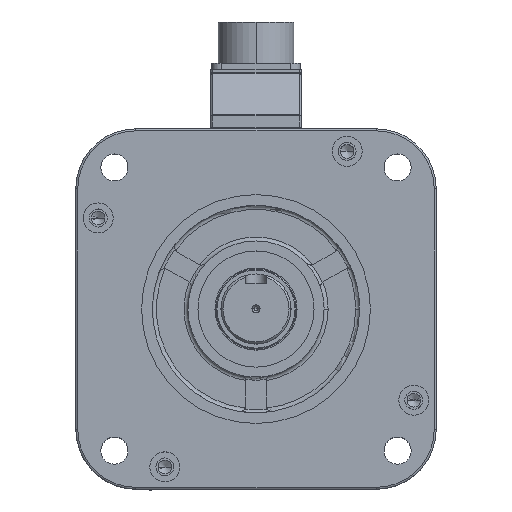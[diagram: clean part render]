
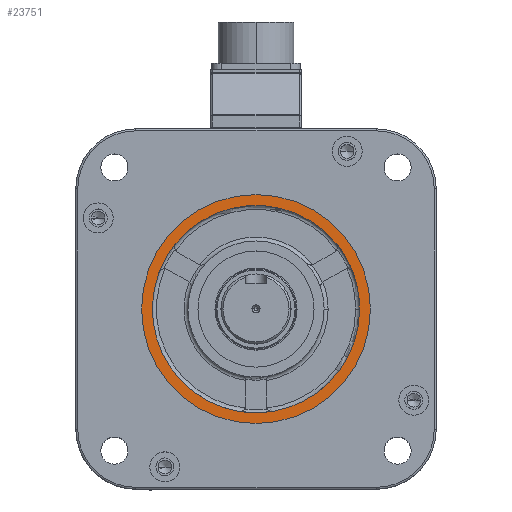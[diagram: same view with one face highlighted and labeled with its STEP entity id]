
A CAD part, top view. The second image highlights one B-rep face of the part: STEP entity #23751.
In plain terms, the highlighted planar face has unit normal (0, 0, 1).
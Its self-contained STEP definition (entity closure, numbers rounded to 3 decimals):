
#34 = ORIENTED_EDGE ( 'NONE', *, *, #17612, .T. ) ;
#945 = VERTEX_POINT ( 'NONE', #46619 ) ;
#1052 = CARTESIAN_POINT ( 'NONE',  ( 8.492, -51.048, 21. ) ) ;
#1418 = CARTESIAN_POINT ( 'NONE',  ( 39.963, 32.879, 21. ) ) ;
#1687 = EDGE_CURVE ( 'NONE', #17795, #56482, #14561, .T. ) ;
#1950 = CARTESIAN_POINT ( 'NONE',  ( 51.75, 0., 21. ) ) ;
#2495 = CIRCLE ( 'NONE', #35023, 51.75 ) ;
#2653 = DIRECTION ( 'NONE',  ( 1., 0., 0. ) ) ;
#4839 = PLANE ( 'NONE',  #35305 ) ;
#6556 = CARTESIAN_POINT ( 'NONE',  ( 0., 0., 21. ) ) ;
#6816 = EDGE_LOOP ( 'NONE', ( #34, #28494 ) ) ;
#8358 = CARTESIAN_POINT ( 'NONE',  ( 0., 0., 21. ) ) ;
#8615 = CARTESIAN_POINT ( 'NONE',  ( 0., 0., 21. ) ) ;
#9850 = CIRCLE ( 'NONE', #17497, 51.75 ) ;
#11651 = DIRECTION ( 'NONE',  ( 0., 0., 1. ) ) ;
#12934 = VERTEX_POINT ( 'NONE', #1418 ) ;
#13634 = CIRCLE ( 'NONE', #19395, 57.15 ) ;
#14180 = CIRCLE ( 'NONE', #55305, 51.75 ) ;
#14561 = CIRCLE ( 'NONE', #25086, 57.15 ) ;
#16609 = CIRCLE ( 'NONE', #35755, 51.75 ) ;
#16876 = DIRECTION ( 'NONE',  ( 1., 0., 0. ) ) ;
#17218 = CIRCLE ( 'NONE', #58360, 51.75 ) ;
#17345 = DIRECTION ( 'NONE',  ( 0., 0., 1. ) ) ;
#17497 = AXIS2_PLACEMENT_3D ( 'NONE', #29382, #56362, #57245 ) ;
#17612 = EDGE_CURVE ( 'NONE', #56482, #17795, #13634, .T. ) ;
#17721 = DIRECTION ( 'NONE',  ( 0., 0., 1. ) ) ;
#17795 = VERTEX_POINT ( 'NONE', #25899 ) ;
#19395 = AXIS2_PLACEMENT_3D ( 'NONE', #57342, #33373, #47155 ) ;
#19608 = CIRCLE ( 'NONE', #51167, 51.75 ) ;
#23114 = CARTESIAN_POINT ( 'NONE',  ( 0., 0., 21. ) ) ;
#23751 = ADVANCED_FACE ( 'NONE', ( #45837, #58776 ), #4839, .T. ) ;
#25086 = AXIS2_PLACEMENT_3D ( 'NONE', #27635, #50692, #32722 ) ;
#25899 = CARTESIAN_POINT ( 'NONE',  ( 57.15, 0., 21. ) ) ;
#26359 = DIRECTION ( 'NONE',  ( 0., 0., 1. ) ) ;
#26431 = VERTEX_POINT ( 'NONE', #27032 ) ;
#26435 = EDGE_CURVE ( 'NONE', #47578, #26431, #17218, .T. ) ;
#26621 = DIRECTION ( 'NONE',  ( 1., 0., 0. ) ) ;
#27032 = CARTESIAN_POINT ( 'NONE',  ( -8.492, -51.048, 21. ) ) ;
#27194 = EDGE_CURVE ( 'NONE', #12934, #35854, #59051, .T. ) ;
#27635 = CARTESIAN_POINT ( 'NONE',  ( 0., 0., 21. ) ) ;
#27792 = EDGE_CURVE ( 'NONE', #56645, #39320, #9850, .T. ) ;
#28160 = EDGE_CURVE ( 'NONE', #35854, #47578, #16609, .T. ) ;
#28494 = ORIENTED_EDGE ( 'NONE', *, *, #1687, .T. ) ;
#29382 = CARTESIAN_POINT ( 'NONE',  ( 0., 0., 21. ) ) ;
#29497 = CARTESIAN_POINT ( 'NONE',  ( -39.963, 32.879, 21. ) ) ;
#29520 = ORIENTED_EDGE ( 'NONE', *, *, #54441, .F. ) ;
#29742 = ORIENTED_EDGE ( 'NONE', *, *, #27194, .F. ) ;
#29910 = DIRECTION ( 'NONE',  ( 1., 0., 0. ) ) ;
#31816 = ORIENTED_EDGE ( 'NONE', *, *, #26435, .F. ) ;
#32722 = DIRECTION ( 'NONE',  ( 1., 0., 0. ) ) ;
#33205 = AXIS2_PLACEMENT_3D ( 'NONE', #8615, #43683, #2653 ) ;
#33373 = DIRECTION ( 'NONE',  ( 0., 0., 1. ) ) ;
#33708 = ORIENTED_EDGE ( 'NONE', *, *, #47934, .F. ) ;
#34377 = ORIENTED_EDGE ( 'NONE', *, *, #28160, .F. ) ;
#35023 = AXIS2_PLACEMENT_3D ( 'NONE', #49115, #26359, #44613 ) ;
#35305 = AXIS2_PLACEMENT_3D ( 'NONE', #23114, #17721, #54272 ) ;
#35755 = AXIS2_PLACEMENT_3D ( 'NONE', #6556, #11651, #29910 ) ;
#35822 = CARTESIAN_POINT ( 'NONE',  ( -57.15, 0., 21. ) ) ;
#35854 = VERTEX_POINT ( 'NONE', #29497 ) ;
#39320 = VERTEX_POINT ( 'NONE', #1950 ) ;
#39330 = CARTESIAN_POINT ( 'NONE',  ( -48.455, 18.17, 21. ) ) ;
#40502 = DIRECTION ( 'NONE',  ( 0., 0., 1. ) ) ;
#43683 = DIRECTION ( 'NONE',  ( 0., 0., 1. ) ) ;
#44132 = CARTESIAN_POINT ( 'NONE',  ( 0., 0., 21. ) ) ;
#44613 = DIRECTION ( 'NONE',  ( 1., 0., 0. ) ) ;
#45837 = FACE_BOUND ( 'NONE', #57196, .T. ) ;
#46619 = CARTESIAN_POINT ( 'NONE',  ( 48.455, 18.17, 21. ) ) ;
#47155 = DIRECTION ( 'NONE',  ( 1., 0., 0. ) ) ;
#47294 = ORIENTED_EDGE ( 'NONE', *, *, #58741, .F. ) ;
#47578 = VERTEX_POINT ( 'NONE', #39330 ) ;
#47934 = EDGE_CURVE ( 'NONE', #39320, #945, #2495, .T. ) ;
#49115 = CARTESIAN_POINT ( 'NONE',  ( 0., 0., 21. ) ) ;
#49382 = CARTESIAN_POINT ( 'NONE',  ( 0., 0., 21. ) ) ;
#50692 = DIRECTION ( 'NONE',  ( 0., 0., 1. ) ) ;
#51167 = AXIS2_PLACEMENT_3D ( 'NONE', #8358, #59276, #26621 ) ;
#53308 = DIRECTION ( 'NONE',  ( 1., 0., 0. ) ) ;
#54272 = DIRECTION ( 'NONE',  ( 1., 0., 0. ) ) ;
#54441 = EDGE_CURVE ( 'NONE', #26431, #56645, #19608, .T. ) ;
#55305 = AXIS2_PLACEMENT_3D ( 'NONE', #49382, #17345, #53308 ) ;
#56362 = DIRECTION ( 'NONE',  ( 0., 0., 1. ) ) ;
#56482 = VERTEX_POINT ( 'NONE', #35822 ) ;
#56645 = VERTEX_POINT ( 'NONE', #1052 ) ;
#57196 = EDGE_LOOP ( 'NONE', ( #47294, #33708, #58582, #29520, #31816, #34377, #29742 ) ) ;
#57245 = DIRECTION ( 'NONE',  ( 1., 0., 0. ) ) ;
#57342 = CARTESIAN_POINT ( 'NONE',  ( 0., 0., 21. ) ) ;
#58360 = AXIS2_PLACEMENT_3D ( 'NONE', #44132, #40502, #16876 ) ;
#58582 = ORIENTED_EDGE ( 'NONE', *, *, #27792, .F. ) ;
#58741 = EDGE_CURVE ( 'NONE', #945, #12934, #14180, .T. ) ;
#58776 = FACE_OUTER_BOUND ( 'NONE', #6816, .T. ) ;
#59051 = CIRCLE ( 'NONE', #33205, 51.75 ) ;
#59276 = DIRECTION ( 'NONE',  ( 0., 0., 1. ) ) ;
